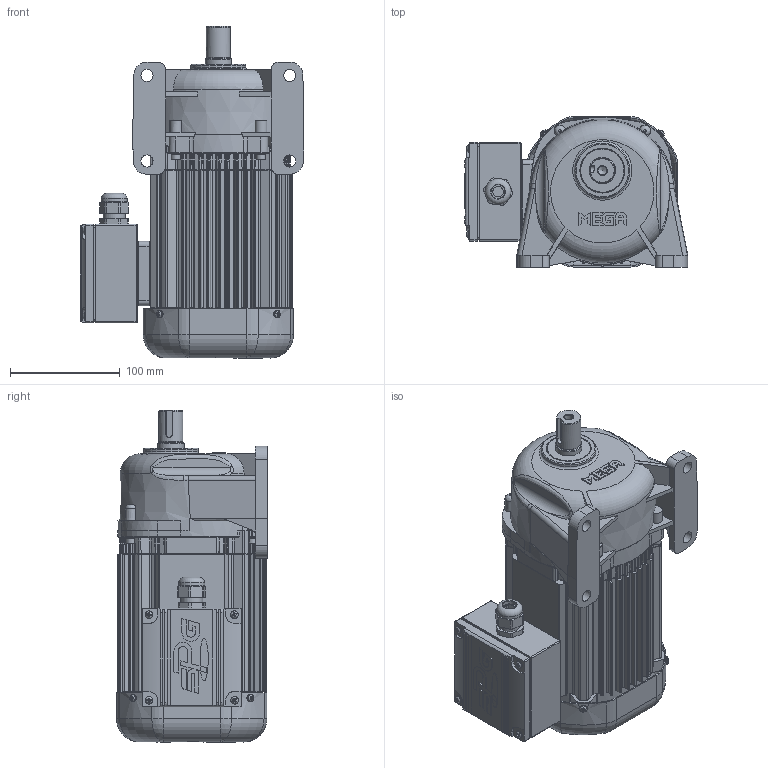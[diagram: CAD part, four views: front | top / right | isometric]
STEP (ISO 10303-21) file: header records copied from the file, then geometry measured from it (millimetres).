
FILE_DESCRIPTION(/* description */ (''),/* implementation_level */ '2;1');
FILE_NAME(/* name */ 'Z:\동력 3D 파일\PML88-(5~30)-MA(B)040[ ]L_(3D).stp',/* time_stamp */ '2021-08-27T14:36:36+09:00',/* author */ ('jaebok'),/* organization */ (''),/* preprocessor_version */ 'ST-DEVELOPER v18.1',/* originating_system */ 'Autodesk Inventor 2022',/* authorisation */ '');
FILE_SCHEMA (('AUTOMOTIVE_DESIGN { 1 0 10303 214 3 1 1 }'));
Products named in the file (1): 부품2
Bounding box: 204 x 137.5 x 302.5 mm (x, y, z)
Volume: 1247657.4 mm3; surface area: 500121.8 mm2
Topology: 1 solids, 31 shells, 3164 faces, 8149 edges, 4951 vertices
Faces by surface type: plane 1065, cylinder 852, bspline 763, torus 270, cone 126, sphere 88
Full cylindrical faces by diameter (mm): 2 x1, 3.25 x1, 3.5 x4, 3.6 x4, 4 x21, 4.134 x4, 5 x23, 5.5 x4, 6 x5, 7 x12, 8 x6, 8.5 x4, 10 x1, 11 x4, 12.5 x1, 14 x1, 15 x1, 15.5 x1, 18 x1, 20 x2, 21 x1, 21.6 x1, 21.96 x1, 22 x1, 23 x1, 23.6 x1, 24 x2, 25 x2, 30 x3, 32 x1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
Entity records: 125589 total; most frequent: CARTESIAN_POINT 49892, ORIENTED_EDGE 15946, DIRECTION 14065, EDGE_CURVE 7973, AXIS2_PLACEMENT_3D 5592, VERTEX_POINT 4950, EDGE_LOOP 3347, FACE_OUTER_BOUND 3164
